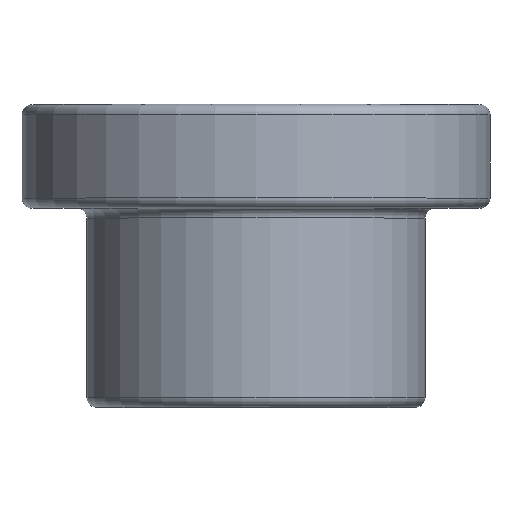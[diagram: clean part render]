
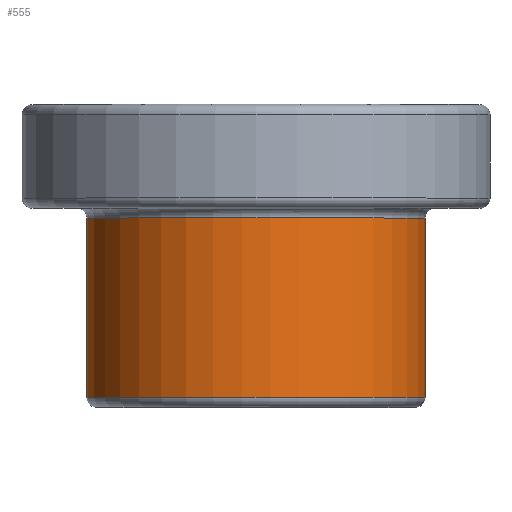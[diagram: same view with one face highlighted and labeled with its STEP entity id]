
A CAD part, top view. The second image highlights one B-rep face of the part: STEP entity #555.
In plain terms, the highlighted cylindrical face has radius 8.5 mm (diameter 17 mm), a partial arc.
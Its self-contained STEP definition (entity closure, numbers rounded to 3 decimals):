
#46=LINE('',#996,#67);
#52=LINE('',#1062,#73);
#67=VECTOR('',#749,10.);
#73=VECTOR('',#813,10.);
#87=CYLINDRICAL_SURFACE('',#647,8.5);
#116=FACE_OUTER_BOUND('',#152,.T.);
#152=EDGE_LOOP('',(#461,#462,#463,#464));
#170=CIRCLE('',#593,8.5);
#195=CIRCLE('',#628,8.5);
#226=VERTEX_POINT('',#880);
#228=VERTEX_POINT('',#885);
#246=VERTEX_POINT('',#995);
#251=VERTEX_POINT('',#1018);
#282=EDGE_CURVE('',#228,#226,#170,.T.);
#311=EDGE_CURVE('',#226,#246,#46,.T.);
#320=EDGE_CURVE('',#246,#251,#195,.T.);
#337=EDGE_CURVE('',#251,#228,#52,.T.);
#461=ORIENTED_EDGE('',*,*,#282,.F.);
#462=ORIENTED_EDGE('',*,*,#337,.F.);
#463=ORIENTED_EDGE('',*,*,#320,.F.);
#464=ORIENTED_EDGE('',*,*,#311,.F.);
#555=ADVANCED_FACE('',(#116),#87,.T.);
#593=AXIS2_PLACEMENT_3D('',#887,#690,#691);
#628=AXIS2_PLACEMENT_3D('',#1022,#770,#771);
#647=AXIS2_PLACEMENT_3D('',#1063,#814,#815);
#690=DIRECTION('center_axis',(0.,-1.,0.));
#691=DIRECTION('ref_axis',(0.,0.,1.));
#749=DIRECTION('',(0.,1.,0.));
#770=DIRECTION('center_axis',(0.,1.,0.));
#771=DIRECTION('ref_axis',(0.,0.,1.));
#813=DIRECTION('',(0.,-1.,0.));
#814=DIRECTION('center_axis',(0.,-1.,0.));
#815=DIRECTION('ref_axis',(0.,0.,1.));
#880=CARTESIAN_POINT('',(-5.368,-14.7,-6.59));
#885=CARTESIAN_POINT('',(5.368,-14.7,-6.59));
#887=CARTESIAN_POINT('Origin',(0.,-14.7,0.));
#995=CARTESIAN_POINT('',(-5.368,-5.7,-6.59));
#996=CARTESIAN_POINT('',(-5.368,-10.2,-6.59));
#1018=CARTESIAN_POINT('',(5.368,-5.7,-6.59));
#1022=CARTESIAN_POINT('Origin',(0.,-5.7,0.));
#1062=CARTESIAN_POINT('',(5.368,-10.2,-6.59));
#1063=CARTESIAN_POINT('Origin',(0.,-10.2,0.));
